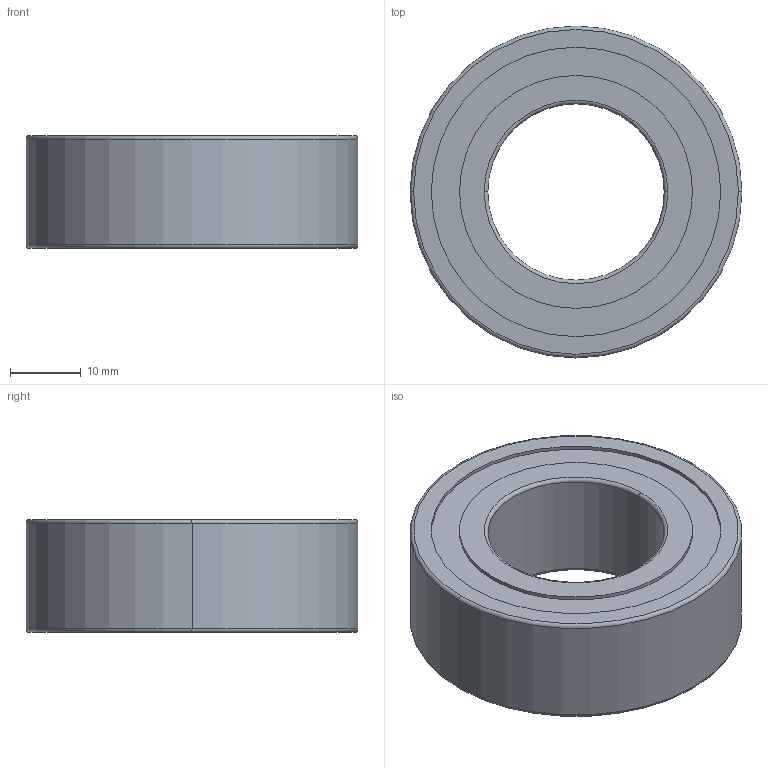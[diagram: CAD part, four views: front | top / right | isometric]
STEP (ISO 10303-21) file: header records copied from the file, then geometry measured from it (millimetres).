
FILE_DESCRIPTION (( 'STEP AP203' ), '1' );
FILE_NAME ('084.802.021.STEP', '2013-01-29T13:47:17', ( 'Alusic' ), ( 'Alusic' ), 'SwSTEP 2.0', 'SolidWorks 2011', '' );
FILE_SCHEMA (( 'CONFIG_CONTROL_DESIGN' ));
Length unit declared in the file: millimetre
Products named in the file (1): 084.802.021
Bounding box: 47 x 47 x 16 mm (x, y, z)
Volume: 19415.9 mm3; surface area: 6242.7 mm2
Topology: 1 solids, 1 shells, 26 faces, 52 edges, 32 vertices
Faces by surface type: cylinder 12, torus 8, plane 6
Entity records: 773 total; most frequent: DIRECTION 146, CARTESIAN_POINT 111, ORIENTED_EDGE 104, AXIS2_PLACEMENT_3D 67, EDGE_CURVE 52, CIRCLE 40, VERTEX_POINT 32, EDGE_LOOP 32
